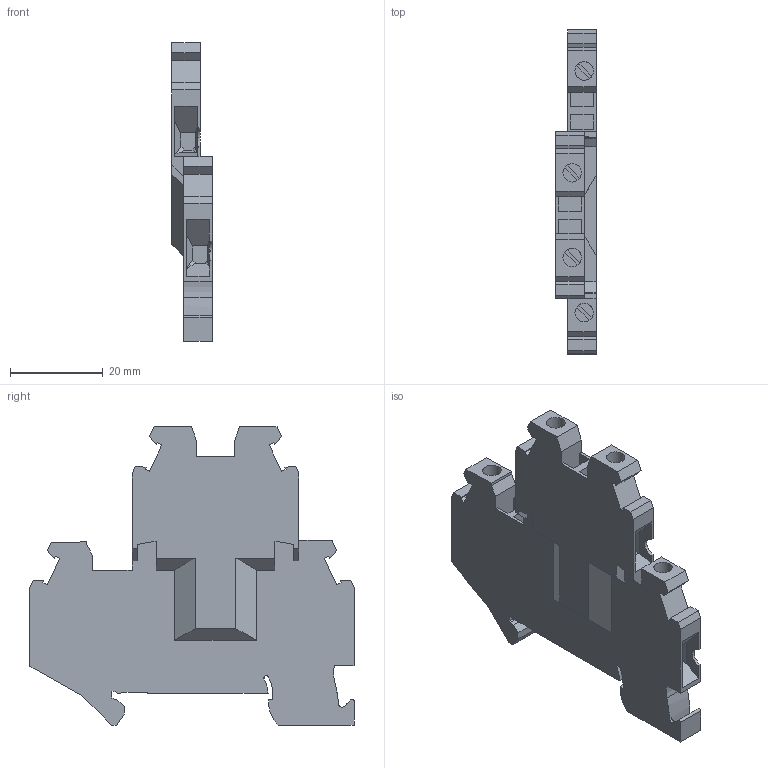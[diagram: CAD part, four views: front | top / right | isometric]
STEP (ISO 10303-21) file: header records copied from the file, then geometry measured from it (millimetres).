
FILE_DESCRIPTION( ('This file contains a STEP AP42 implementation' ,'as created by ZW3D STEP Interface translator.') ,'2;1' );
FILE_NAME( 'RUTTB4.stp' ,'23 612.101849', (''), ('ZWCAD Software Co.'), 'Version 1.0', 'ZW3D to STEP translator', '' );
FILE_SCHEMA(('AUTOMOTIVE_DESIGN { 1 0 10303 214 1 1 1 1 }'));
Length unit declared in the file: millimetre
Products named in the file (2): 0; 3044814
Bounding box: 8.72 x 69.9 x 64.35 mm (x, y, z)
Volume: 15514.8 mm3; surface area: 10229 mm2
Topology: 1 solids, 1 shells, 244 faces, 700 edges, 463 vertices
Faces by surface type: plane 219, cylinder 25
Full cylindrical faces by diameter (mm): 4 x4
Entity records: 8146 total; most frequent: CARTESIAN_POINT 1414, ORIENTED_EDGE 1400, DIRECTION 1255, EDGE_CURVE 700, VECTOR 633, LINE 633, VERTEX_POINT 463, AXIS2_PLACEMENT_3D 311
